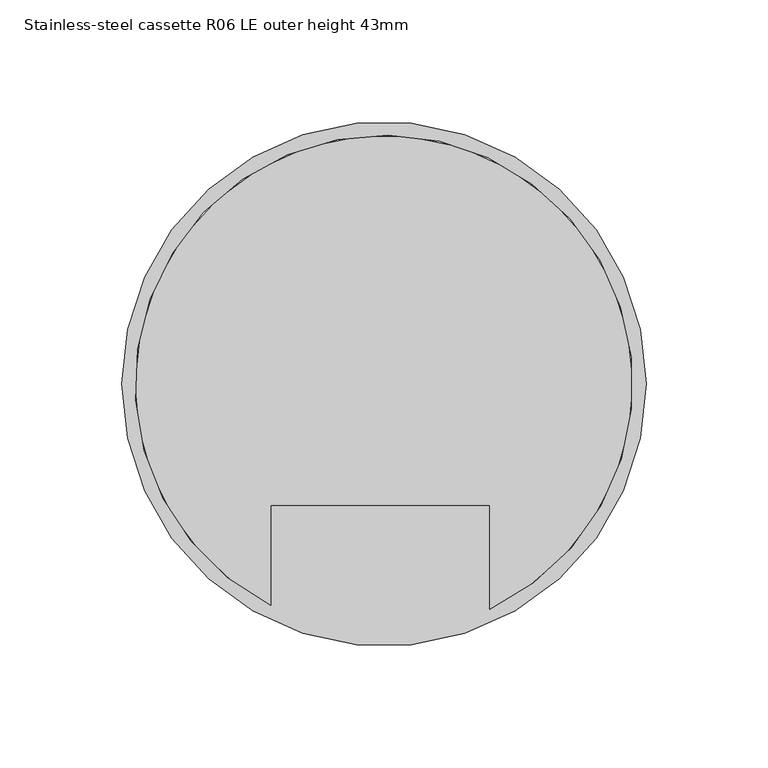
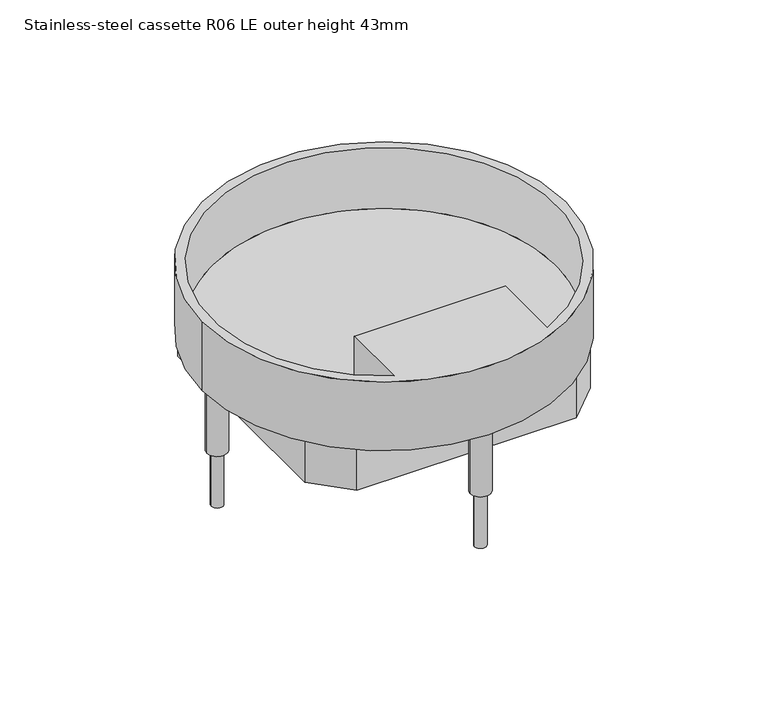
"""IFC4 building model written with IfcOpenShell, lengths in millimetres: proxy geometry, Electrical_Installation_Hager_VE-EE_EKR-Height-adjustable-stainless-steel-cassette-with-square-cable-outlet-for-dry-cleaned-floors : Stainless-steel cassette R06 LE outer height 43mm."""

from ifc_helpers import new_model, si_unit, point, frame, frame_2d, origin, place, context, project, spatial, polyline, circle_curve, trimmed, segment, composite_curve, outline, extrude, source, transform, mapped, element, save
from ifc_brep_helpers import plane_surface, cylinder_surface, revolved_surface, advanced_brep


def stainless_steel_cassette_r06_le_outer_height_43mm_8ea11e9a(model_context):
    return source(origin(), model_context, "Body", "SolidModel", [
        extrude(outline(composite_curve([segment(trimmed(circle_curve(frame_2d((-98.8, 0.0)), 3.5), [point((-102.3, 0.0))], [point((-95.3, 0.0))], False, "CARTESIAN"), True, "CONTINUOUS"), segment(trimmed(circle_curve(frame_2d((-98.8, 0.0)), 3.5), [point((-95.3, 0.0))], [point((-102.3, 0.0))], False, "CARTESIAN"), True, "CONTINUOUS")], self_intersect=False)), frame((0.0, 0.0, -115.0), z_axis=(0.0, 0.0, 1.0), x_axis=(1.0, 0.0, 0.0)), (0.0, 0.0, 1.0), 74.011943),
        extrude(outline(composite_curve([segment(trimmed(circle_curve(frame_2d((0.0, 98.8)), 3.5), [point((-3.5, 98.8))], [point((3.5, 98.8))], False, "CARTESIAN"), True, "CONTINUOUS"), segment(trimmed(circle_curve(frame_2d((0.0, 98.8)), 3.5), [point((3.5, 98.8))], [point((-3.5, 98.8))], False, "CARTESIAN"), True, "CONTINUOUS")], self_intersect=False)), frame((0.0, 0.0, -115.0), z_axis=(0.0, 0.0, 1.0), x_axis=(1.0, 0.0, 0.0)), (0.0, 0.0, 1.0), 74.011943),
        extrude(outline(composite_curve([segment(trimmed(circle_curve(frame_2d((98.8, 0.0)), 3.548869), [point((95.251131, 0.0))], [point((102.348869, 0.0))], False, "CARTESIAN"), True, "CONTINUOUS"), segment(trimmed(circle_curve(frame_2d((98.8, 0.0)), 3.548869), [point((102.348869, 0.0))], [point((95.251131, 0.0))], False, "CARTESIAN"), True, "CONTINUOUS")], self_intersect=False)), frame((0.0, 0.0, -115.0), z_axis=(0.0, 0.0, 1.0), x_axis=(1.0, 0.0, 0.0)), (0.0, 0.0, 1.0), 74.011943),
        extrude(outline(composite_curve([segment(trimmed(circle_curve(frame_2d((0.0, -98.8)), 3.5), [point((-3.5, -98.8))], [point((3.5, -98.8))], False, "CARTESIAN"), True, "CONTINUOUS"), segment(trimmed(circle_curve(frame_2d((0.0, -98.8)), 3.5), [point((3.5, -98.8))], [point((-3.5, -98.8))], False, "CARTESIAN"), True, "CONTINUOUS")], self_intersect=False)), frame((0.0, 0.0, -115.0), z_axis=(0.0, 0.0, 1.0), x_axis=(1.0, 0.0, 0.0)), (0.0, 0.0, 1.0), 74.011943),
        advanced_brep(
        [(-102.0, 0.0, -35.988057), (-46.3841599, -90.8433251, -35.988057), (-46.3841599, -49.7709238, -35.988057), (43.2879642, -49.7709238, -35.988057), (43.2879642, -92.3588228, -35.988057), (102.0, 0.0, -35.988057), (-107.5, 0.0, -40.988057), (107.5, 0.0, -40.988057), (-107.5, 0.0, 2.011943), (107.5, 0.0, 2.011943), (-46.3841599, -90.8433251, 2.011943), (43.2879642, -92.3588228, 2.011943), (43.2879642, -49.7709238, 2.011943), (-46.3841599, -49.7709238, 2.011943)],
        [
            (0, 1, circle_curve(frame((0.0, 0.0, -35.988057), z_axis=(0.0, 0.0, 1.0), x_axis=(1.0, 0.0, 0.0)), 102.0)),
            (1, 2),
            (2, 3),
            (3, 4),
            (4, 5, circle_curve(frame((0.0, 0.0, -35.988057), z_axis=(0.0, 0.0, 1.0), x_axis=(1.0, 0.0, 0.0)), 102.0)),
            (5, 0, circle_curve(frame((0.0, 0.0, -35.988057), z_axis=(0.0, 0.0, 1.0), x_axis=(1.0, 0.0, 0.0)), 102.0)),
            (6, 7, circle_curve(frame((0.0, 0.0, -40.988057), z_axis=(0.0, 0.0, -1.0), x_axis=(1.0, 0.0, 0.0)), 107.5)),
            (7, 6, circle_curve(frame((0.0, 0.0, -40.988057), z_axis=(0.0, 0.0, -1.0), x_axis=(1.0, 0.0, 0.0)), 107.5)),
            (8, 9, circle_curve(frame((0.0, 0.0, 2.011943), z_axis=(0.0, 0.0, 1.0), x_axis=(1.0, 0.0, 0.0)), 107.5)),
            (9, 8, circle_curve(frame((0.0, 0.0, 2.011943), z_axis=(0.0, 0.0, 1.0), x_axis=(1.0, 0.0, 0.0)), 107.5)),
            (10, 11, circle_curve(frame((0.0, 0.0, 2.011943), z_axis=(0.0, 0.0, -1.0), x_axis=(1.0, 0.0, 0.0)), 102.0)),
            (11, 12),
            (12, 13),
            (13, 10),
            (8, 6),
            (7, 9),
            (10, 1),
            (4, 11),
            (3, 12),
            (2, 13),
        ],
        [
            plane_surface(frame((102.0, 0.0, -35.988057), z_axis=(0.0, 0.0, 1.0), x_axis=(0.0, 1.0, 0.0))),
            plane_surface(frame((102.0, 0.0, -40.988057), z_axis=(0.0, 0.0, -1.0), x_axis=(0.0, -1.0, 0.0))),
            plane_surface(frame((107.5, 0.0, 2.011943), z_axis=(0.0, 0.0, 1.0), x_axis=(0.0, 1.0, 0.0))),
            cylinder_surface(frame((0.0, 0.0, -40.988057), z_axis=(0.0, 0.0, 1.0), x_axis=(1.0, 0.0, 0.0)), 107.5),
            revolved_surface(polyline([(102.0, 0.0, -35.988057), (102.0, 0.0, 2.011943)]), (0.0, 0.0, 0.0), (0.0, 0.0, -1.0)),
            plane_surface(frame((43.2879642, -92.3588228, 2.011943), z_axis=(1.0, 0.0, 0.0), x_axis=(0.0, 0.0, -1.0))),
            plane_surface(frame((43.2879642, -49.7709238, 2.011943), z_axis=(0.0, 1.0, 0.0), x_axis=(0.0, 0.0, -1.0))),
            plane_surface(frame((-46.3841599, -49.7709238, 2.011943), z_axis=(-1.0, 0.0, 0.0), x_axis=(0.0, 0.0, -1.0))),
        ],
        [
            (0, [[1, 2, 3, 4, 5, 6]]),
            (1, [[7, 8]]),
            (2, [[9, 10], [11, 12, 13, 14]]),
            (3, [[-9, 15, -8, 16]]),
            (3, [[-10, -16, -7, -15]]),
            (4, [[-11, 17, -1, -6, -5, 18]]),
            (5, [[-12, -18, -4, 19]]),
            (6, [[-13, -19, -3, 20]]),
            (7, [[-14, -20, -2, -17]]),
        ],
    ),
        extrude(outline(polyline([(64.9818914, 84.5), (84.5, 64.9818914), (84.5, -64.9818914), (64.9818914, -84.5), (-64.9818914, -84.5), (-84.5, -64.9818914), (-84.5, 64.9818914), (-64.9818914, 84.5), (64.9818914, 84.5)]), holes=[polyline([(-81.5, 63.8602374), (-81.5, -63.8602374), (-63.8602374, -81.5), (63.8602374, -81.5), (81.5, -63.8602374), (81.5, 63.8602374), (63.8602374, 81.5), (-63.8602374, 81.5), (-81.5, 63.8602374)])]), frame((0.0, 0.0, -66.9297651), z_axis=(0.0, 0.0, 1.0), x_axis=(1.0, 0.0, 0.0)), (0.0, 0.0, 1.0), 25.9417081),
        extrude(outline(composite_curve([segment(trimmed(circle_curve(frame_2d((0.0, 98.8)), 5.9738904), [point((-5.9738904, 98.8))], [point((5.9738904, 98.8))], False, "CARTESIAN"), True, "CONTINUOUS"), segment(trimmed(circle_curve(frame_2d((0.0, 98.8)), 5.9738904), [point((5.9738904, 98.8))], [point((-5.9738904, 98.8))], False, "CARTESIAN"), True, "CONTINUOUS")], self_intersect=False)), frame((0.0, 0.0, -81.0371838), z_axis=(0.0, 0.0, 1.0), x_axis=(1.0, 0.0, 0.0)), (0.0, 0.0, 1.0), 40.0491267),
        extrude(outline(composite_curve([segment(trimmed(circle_curve(frame_2d((98.8, 0.0)), 6.0), [point((92.8, 0.0))], [point((104.8, 0.0))], False, "CARTESIAN"), True, "CONTINUOUS"), segment(trimmed(circle_curve(frame_2d((98.8, 0.0)), 6.0), [point((104.8, 0.0))], [point((92.8, 0.0))], False, "CARTESIAN"), True, "CONTINUOUS")], self_intersect=False)), frame((0.0, 0.0, -81.0371838), z_axis=(0.0, 0.0, 1.0), x_axis=(1.0, 0.0, 0.0)), (0.0, 0.0, 1.0), 40.0491267),
        extrude(outline(composite_curve([segment(trimmed(circle_curve(frame_2d((0.0, -98.8)), 6.0), [point((-6.0, -98.8))], [point((6.0, -98.8))], False, "CARTESIAN"), True, "CONTINUOUS"), segment(trimmed(circle_curve(frame_2d((0.0, -98.8)), 6.0), [point((6.0, -98.8))], [point((-6.0, -98.8))], False, "CARTESIAN"), True, "CONTINUOUS")], self_intersect=False)), frame((0.0, 0.0, -81.0371838), z_axis=(0.0, 0.0, 1.0), x_axis=(1.0, 0.0, 0.0)), (0.0, 0.0, 1.0), 40.0491267),
        extrude(outline(composite_curve([segment(trimmed(circle_curve(frame_2d((-98.8, 0.0)), 6.0), [point((-104.8, 0.0))], [point((-92.8, 0.0))], False, "CARTESIAN"), True, "CONTINUOUS"), segment(trimmed(circle_curve(frame_2d((-98.8, 0.0)), 6.0), [point((-92.8, 0.0))], [point((-104.8, 0.0))], False, "CARTESIAN"), True, "CONTINUOUS")], self_intersect=False)), frame((0.0, 0.0, -81.0371838), z_axis=(0.0, 0.0, 1.0), x_axis=(1.0, 0.0, 0.0)), (0.0, 0.0, 1.0), 40.0491267),
    ])


if __name__ == "__main__":
    model = new_model("IFC4")
    model_context = context("Model", 3, world=origin())
    ifc_project = project(units=[si_unit("LENGTHUNIT", "METRE", prefix="MILLI")], contexts=[model_context])
    site = spatial("IfcSite", under=ifc_project)
    building = spatial("IfcBuilding", under=site)
    placement = place(None, origin())
    stainless_steel_cassette_r06_le_outer_height_43mm_shape = stainless_steel_cassette_r06_le_outer_height_43mm_8ea11e9a(model_context)
    element("IfcBuildingElementProxy", 1, Name="Electrical_Installation_Hager_VE-EE_EKR-Height-adjustable-stainless-steel-cassette-with-square-cable-outlet-for-dry-cleaned-floors : Stainless-steel cassette R06 LE outer height 43mm", ObjectType="Electrical_Installation_Hager_VE-EE_EKR-Height-adjustable-stainless-steel-cassette-with-square-cable-outlet-for-dry-cleaned-floors : Stainless-steel cassette R06 LE outer height 43mm", at=placement, inside=building, context=model_context, shape_type="MappedRepresentation", body=[
        mapped(stainless_steel_cassette_r06_le_outer_height_43mm_shape, transform((0.0, 0.0, 0.0), x_axis=(1.0, 0.0, 0.0), y_axis=(0.0, 1.0, 0.0), z_axis=(0.0, 0.0, 1.0))),
    ])
    save(model, "model.ifc")
